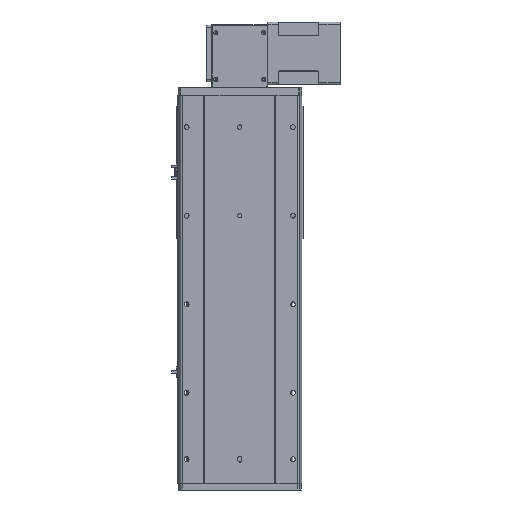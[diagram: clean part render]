
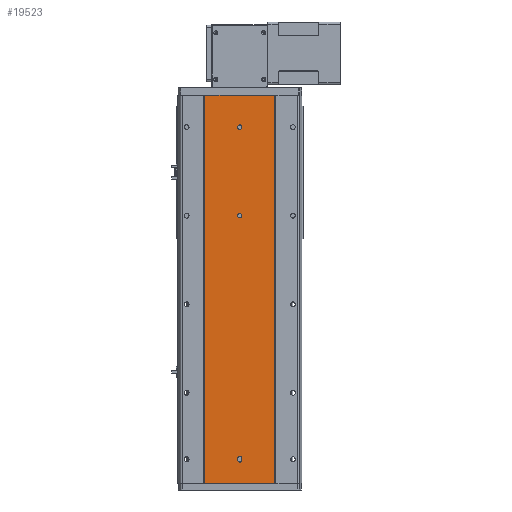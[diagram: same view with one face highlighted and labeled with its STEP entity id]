
A CAD part, front view. The second image highlights one B-rep face of the part: STEP entity #19523.
In plain terms, the highlighted planar face has unit normal (0, -1, 0).
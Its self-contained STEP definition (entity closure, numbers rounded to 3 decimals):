
#483 = CARTESIAN_POINT ( 'NONE',  ( 0., 1.5, -276.5 ) ) ;
#687 = DIRECTION ( 'NONE',  ( 1., 0., 0. ) ) ;
#1294 = LINE ( 'NONE', #22229, #18314 ) ;
#1342 = DIRECTION ( 'NONE',  ( 1., 0., 0. ) ) ;
#1653 = ORIENTED_EDGE ( 'NONE', *, *, #19346, .T. ) ;
#2449 = EDGE_CURVE ( 'NONE', #5300, #18407, #6077, .T. ) ;
#2613 = AXIS2_PLACEMENT_3D ( 'NONE', #9548, #14091, #27939 ) ;
#2964 = ORIENTED_EDGE ( 'NONE', *, *, #22938, .T. ) ;
#3166 = ORIENTED_EDGE ( 'NONE', *, *, #13460, .T. ) ;
#3216 = DIRECTION ( 'NONE',  ( 0., 1., 0. ) ) ;
#3361 = DIRECTION ( 'NONE',  ( 0., 1., 0. ) ) ;
#4653 = AXIS2_PLACEMENT_3D ( 'NONE', #26041, #3216, #5596 ) ;
#4867 = CARTESIAN_POINT ( 'NONE',  ( 0., 1.5, -76.5 ) ) ;
#4965 = CARTESIAN_POINT ( 'NONE',  ( 5., 1.5, -823. ) ) ;
#5088 = CIRCLE ( 'NONE', #4653, 5. ) ;
#5154 = DIRECTION ( 'NONE',  ( 1., 0., 0. ) ) ;
#5300 = VERTEX_POINT ( 'NONE', #4867 ) ;
#5398 = CARTESIAN_POINT ( 'NONE',  ( -79., 1.5, -877. ) ) ;
#5453 = CARTESIAN_POINT ( 'NONE',  ( 0., 1.5, -71.5 ) ) ;
#5596 = DIRECTION ( 'NONE',  ( 1., 0., 0. ) ) ;
#5623 = CARTESIAN_POINT ( 'NONE',  ( 79., 1.5, 0. ) ) ;
#5812 = CARTESIAN_POINT ( 'NONE',  ( 0., 1.5, -66.5 ) ) ;
#6077 = CIRCLE ( 'NONE', #6457, 5. ) ;
#6457 = AXIS2_PLACEMENT_3D ( 'NONE', #21390, #10147, #1342 ) ;
#6637 = EDGE_LOOP ( 'NONE', ( #3166, #2964, #20620, #1653, #26024 ) ) ;
#7219 = DIRECTION ( 'NONE',  ( 1., 0., 0. ) ) ;
#7537 = VERTEX_POINT ( 'NONE', #4965 ) ;
#8136 = CIRCLE ( 'NONE', #14266, 5. ) ;
#8258 = DIRECTION ( 'NONE',  ( 0., 0., -1. ) ) ;
#8555 = EDGE_LOOP ( 'NONE', ( #20948, #26436, #26336, #21994 ) ) ;
#8629 = VERTEX_POINT ( 'NONE', #14062 ) ;
#8878 = VERTEX_POINT ( 'NONE', #483 ) ;
#9025 = CARTESIAN_POINT ( 'NONE',  ( 5., 1.5, -820. ) ) ;
#9063 = CIRCLE ( 'NONE', #10765, 5. ) ;
#9197 = DIRECTION ( 'NONE',  ( 1., 0., 0. ) ) ;
#9295 = CARTESIAN_POINT ( 'NONE',  ( 0., 1.5, -823. ) ) ;
#9514 = VERTEX_POINT ( 'NONE', #22873 ) ;
#9548 = CARTESIAN_POINT ( 'NONE',  ( -79., 1.5, -877. ) ) ;
#9836 = LINE ( 'NONE', #20925, #16929 ) ;
#10066 = DIRECTION ( 'NONE',  ( 0., 1., 0. ) ) ;
#10147 = DIRECTION ( 'NONE',  ( 0., 1., 0. ) ) ;
#10175 = EDGE_CURVE ( 'NONE', #8629, #8878, #14609, .T. ) ;
#10765 = AXIS2_PLACEMENT_3D ( 'NONE', #23015, #13804, #20377 ) ;
#10900 = VERTEX_POINT ( 'NONE', #14943 ) ;
#12082 = ORIENTED_EDGE ( 'NONE', *, *, #2449, .T. ) ;
#12652 = EDGE_LOOP ( 'NONE', ( #18752, #23111 ) ) ;
#13272 = DIRECTION ( 'NONE',  ( 0., 0., 1. ) ) ;
#13460 = EDGE_CURVE ( 'NONE', #19538, #9514, #24537, .T. ) ;
#13728 = EDGE_CURVE ( 'NONE', #29002, #22920, #9836, .T. ) ;
#13804 = DIRECTION ( 'NONE',  ( 0., 1., 0. ) ) ;
#13848 = LINE ( 'NONE', #21815, #22081 ) ;
#14062 = CARTESIAN_POINT ( 'NONE',  ( 0., 1.5, -266.5 ) ) ;
#14091 = DIRECTION ( 'NONE',  ( 0., -1., 0. ) ) ;
#14266 = AXIS2_PLACEMENT_3D ( 'NONE', #9295, #21014, #687 ) ;
#14384 = CARTESIAN_POINT ( 'NONE',  ( 79., 1.5, -877. ) ) ;
#14486 = VECTOR ( 'NONE', #13272, 1000. ) ;
#14609 = CIRCLE ( 'NONE', #17250, 5. ) ;
#14798 = CARTESIAN_POINT ( 'NONE',  ( 0., 1.5, -271.5 ) ) ;
#14943 = CARTESIAN_POINT ( 'NONE',  ( -79., 1.5, 0. ) ) ;
#15015 = CARTESIAN_POINT ( 'NONE',  ( 0., 1.5, -271.5 ) ) ;
#15688 = DIRECTION ( 'NONE',  ( 0., 0., 1. ) ) ;
#16226 = EDGE_CURVE ( 'NONE', #25662, #19538, #8136, .T. ) ;
#16424 = AXIS2_PLACEMENT_3D ( 'NONE', #15015, #27205, #9197 ) ;
#16511 = VERTEX_POINT ( 'NONE', #9025 ) ;
#16546 = CARTESIAN_POINT ( 'NONE',  ( -5., 1.5, -823. ) ) ;
#16748 = EDGE_LOOP ( 'NONE', ( #12082, #26468 ) ) ;
#16929 = VECTOR ( 'NONE', #7219, 1000. ) ;
#17181 = LINE ( 'NONE', #18754, #21523 ) ;
#17250 = AXIS2_PLACEMENT_3D ( 'NONE', #14798, #10066, #19210 ) ;
#17526 = EDGE_CURVE ( 'NONE', #22920, #19965, #1294, .T. ) ;
#18276 = LINE ( 'NONE', #26752, #19000 ) ;
#18314 = VECTOR ( 'NONE', #15688, 1000. ) ;
#18407 = VERTEX_POINT ( 'NONE', #5812 ) ;
#18752 = ORIENTED_EDGE ( 'NONE', *, *, #24649, .T. ) ;
#18754 = CARTESIAN_POINT ( 'NONE',  ( -79., 1.5, 0. ) ) ;
#19000 = VECTOR ( 'NONE', #22619, 1000. ) ;
#19210 = DIRECTION ( 'NONE',  ( 1., 0., 0. ) ) ;
#19346 = EDGE_CURVE ( 'NONE', #7537, #25662, #9063, .T. ) ;
#19505 = CIRCLE ( 'NONE', #16424, 5. ) ;
#19523 = ADVANCED_FACE ( 'NONE', ( #25530, #22634, #24091, #29146 ), #23215, .T. ) ;
#19538 = VERTEX_POINT ( 'NONE', #16546 ) ;
#19965 = VERTEX_POINT ( 'NONE', #5623 ) ;
#20075 = EDGE_CURVE ( 'NONE', #29002, #10900, #18276, .T. ) ;
#20377 = DIRECTION ( 'NONE',  ( 1., 0., 0. ) ) ;
#20620 = ORIENTED_EDGE ( 'NONE', *, *, #24257, .T. ) ;
#20925 = CARTESIAN_POINT ( 'NONE',  ( -79., 1.5, -877. ) ) ;
#20948 = ORIENTED_EDGE ( 'NONE', *, *, #26063, .F. ) ;
#21014 = DIRECTION ( 'NONE',  ( 0., 1., 0. ) ) ;
#21349 = DIRECTION ( 'NONE',  ( 1., 0., 0. ) ) ;
#21390 = CARTESIAN_POINT ( 'NONE',  ( 0., 1.5, -71.5 ) ) ;
#21523 = VECTOR ( 'NONE', #5154, 1000. ) ;
#21815 = CARTESIAN_POINT ( 'NONE',  ( 5., 1.5, -877. ) ) ;
#21994 = ORIENTED_EDGE ( 'NONE', *, *, #17526, .T. ) ;
#22081 = VECTOR ( 'NONE', #8258, 1000. ) ;
#22229 = CARTESIAN_POINT ( 'NONE',  ( 79., 1.5, -877. ) ) ;
#22275 = CARTESIAN_POINT ( 'NONE',  ( -5., 1.5, -877. ) ) ;
#22619 = DIRECTION ( 'NONE',  ( 0., 0., 1. ) ) ;
#22634 = FACE_OUTER_BOUND ( 'NONE', #8555, .T. ) ;
#22873 = CARTESIAN_POINT ( 'NONE',  ( -5., 1.5, -820. ) ) ;
#22920 = VERTEX_POINT ( 'NONE', #14384 ) ;
#22938 = EDGE_CURVE ( 'NONE', #9514, #16511, #5088, .T. ) ;
#23015 = CARTESIAN_POINT ( 'NONE',  ( 0., 1.5, -823. ) ) ;
#23111 = ORIENTED_EDGE ( 'NONE', *, *, #10175, .T. ) ;
#23215 = PLANE ( 'NONE',  #2613 ) ;
#24091 = FACE_BOUND ( 'NONE', #12652, .T. ) ;
#24206 = AXIS2_PLACEMENT_3D ( 'NONE', #5453, #3361, #21349 ) ;
#24257 = EDGE_CURVE ( 'NONE', #16511, #7537, #13848, .T. ) ;
#24537 = LINE ( 'NONE', #22275, #14486 ) ;
#24649 = EDGE_CURVE ( 'NONE', #8878, #8629, #19505, .T. ) ;
#25530 = FACE_BOUND ( 'NONE', #16748, .T. ) ;
#25662 = VERTEX_POINT ( 'NONE', #26720 ) ;
#25845 = CIRCLE ( 'NONE', #24206, 5. ) ;
#26024 = ORIENTED_EDGE ( 'NONE', *, *, #16226, .T. ) ;
#26041 = CARTESIAN_POINT ( 'NONE',  ( 0., 1.5, -820. ) ) ;
#26063 = EDGE_CURVE ( 'NONE', #10900, #19965, #17181, .T. ) ;
#26237 = EDGE_CURVE ( 'NONE', #18407, #5300, #25845, .T. ) ;
#26336 = ORIENTED_EDGE ( 'NONE', *, *, #13728, .T. ) ;
#26436 = ORIENTED_EDGE ( 'NONE', *, *, #20075, .F. ) ;
#26468 = ORIENTED_EDGE ( 'NONE', *, *, #26237, .T. ) ;
#26720 = CARTESIAN_POINT ( 'NONE',  ( 0., 1.5, -828. ) ) ;
#26752 = CARTESIAN_POINT ( 'NONE',  ( -79., 1.5, -877. ) ) ;
#27205 = DIRECTION ( 'NONE',  ( 0., 1., 0. ) ) ;
#27939 = DIRECTION ( 'NONE',  ( 1., 0., 0. ) ) ;
#29002 = VERTEX_POINT ( 'NONE', #5398 ) ;
#29146 = FACE_BOUND ( 'NONE', #6637, .T. ) ;
